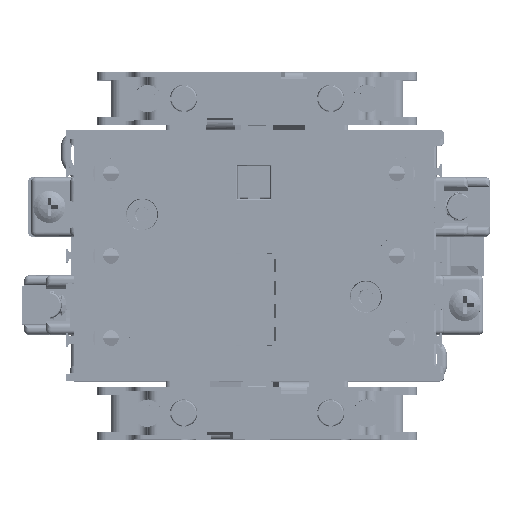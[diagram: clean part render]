
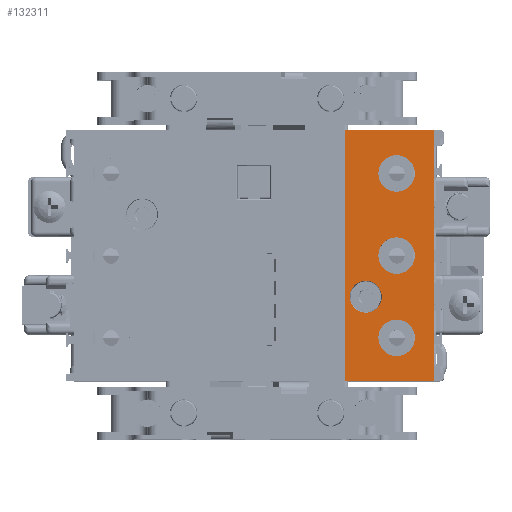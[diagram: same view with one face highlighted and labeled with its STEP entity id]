
A CAD part, top view. The second image highlights one B-rep face of the part: STEP entity #132311.
In plain terms, the highlighted planar face has unit normal (0, 0, 1).
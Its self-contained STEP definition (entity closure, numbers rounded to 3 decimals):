
#1023=DIRECTION('',(-1.,0.,0.));
#1024=VECTOR('',#1023,19.5);
#1025=CARTESIAN_POINT('',(80.5,43.55,79.05));
#1026=LINE('',#1025,#1024);
#1027=DIRECTION('',(0.,1.,0.));
#1028=VECTOR('',#1027,55.);
#1029=CARTESIAN_POINT('',(80.5,-11.45,79.05));
#1030=LINE('',#1029,#1028);
#1031=DIRECTION('',(1.,0.,0.));
#1032=VECTOR('',#1031,19.5);
#1033=CARTESIAN_POINT('',(61.,-11.45,79.05));
#1034=LINE('',#1033,#1032);
#1035=CARTESIAN_POINT('',(65.5,7.05,79.05));
#1036=DIRECTION('',(0.,0.,-1.));
#1037=DIRECTION('',(0.,1.,0.));
#1038=AXIS2_PLACEMENT_3D('',#1035,#1036,#1037);
#1040=CARTESIAN_POINT('',(65.5,7.05,79.05));
#1041=DIRECTION('',(0.,0.,-1.));
#1042=DIRECTION('',(0.,-1.,0.));
#1043=AXIS2_PLACEMENT_3D('',#1040,#1041,#1042);
#1045=CARTESIAN_POINT('',(72.25,16.05,79.05));
#1046=DIRECTION('',(0.,0.,-1.));
#1047=DIRECTION('',(0.,1.,0.));
#1048=AXIS2_PLACEMENT_3D('',#1045,#1046,#1047);
#1050=CARTESIAN_POINT('',(72.25,16.05,79.05));
#1051=DIRECTION('',(0.,0.,-1.));
#1052=DIRECTION('',(0.,-1.,0.));
#1053=AXIS2_PLACEMENT_3D('',#1050,#1051,#1052);
#1055=CARTESIAN_POINT('',(72.25,-1.95,79.05));
#1056=DIRECTION('',(0.,0.,-1.));
#1057=DIRECTION('',(0.,1.,0.));
#1058=AXIS2_PLACEMENT_3D('',#1055,#1056,#1057);
#1060=CARTESIAN_POINT('',(72.25,-1.95,79.05));
#1061=DIRECTION('',(0.,0.,-1.));
#1062=DIRECTION('',(0.,-1.,0.));
#1063=AXIS2_PLACEMENT_3D('',#1060,#1061,#1062);
#1065=CARTESIAN_POINT('',(72.25,34.05,79.05));
#1066=DIRECTION('',(0.,0.,-1.));
#1067=DIRECTION('',(0.,1.,0.));
#1068=AXIS2_PLACEMENT_3D('',#1065,#1066,#1067);
#1070=CARTESIAN_POINT('',(72.25,34.05,79.05));
#1071=DIRECTION('',(0.,0.,-1.));
#1072=DIRECTION('',(0.,-1.,0.));
#1073=AXIS2_PLACEMENT_3D('',#1070,#1071,#1072);
#8783=DIRECTION('',(0.,1.,0.));
#8784=VECTOR('',#8783,55.);
#8785=CARTESIAN_POINT('',(61.,-11.45,79.05));
#8786=LINE('',#8785,#8784);
#104638=CARTESIAN_POINT('',(80.5,43.55,79.05));
#104639=CARTESIAN_POINT('',(61.,43.55,79.05));
#104640=VERTEX_POINT('',#104638);
#104641=VERTEX_POINT('',#104639);
#104642=CARTESIAN_POINT('',(61.,-11.45,79.05));
#104643=VERTEX_POINT('',#104642);
#104644=CARTESIAN_POINT('',(80.5,-11.45,79.05));
#104645=VERTEX_POINT('',#104644);
#105254=CARTESIAN_POINT('',(72.25,38.05,79.05));
#105255=CARTESIAN_POINT('',(72.25,30.05,79.05));
#105256=VERTEX_POINT('',#105254);
#105257=VERTEX_POINT('',#105255);
#105258=CARTESIAN_POINT('',(72.25,2.05,79.05));
#105259=CARTESIAN_POINT('',(72.25,-5.95,79.05));
#105260=VERTEX_POINT('',#105258);
#105261=VERTEX_POINT('',#105259);
#105262=CARTESIAN_POINT('',(72.25,20.05,79.05));
#105263=CARTESIAN_POINT('',(72.25,12.05,79.05));
#105264=VERTEX_POINT('',#105262);
#105265=VERTEX_POINT('',#105263);
#105278=CARTESIAN_POINT('',(65.5,10.55,79.05));
#105280=VERTEX_POINT('',#105278);
#105282=CARTESIAN_POINT('',(65.5,3.55,79.05));
#105284=VERTEX_POINT('',#105282);
#132274=CARTESIAN_POINT('',(41.,16.05,79.05));
#132275=DIRECTION('',(0.,0.,1.));
#132276=DIRECTION('',(0.,-1.,0.));
#132277=AXIS2_PLACEMENT_3D('',#132274,#132275,#132276);
#132278=PLANE('',#132277);
#132280=ORIENTED_EDGE('',*,*,#132279,.F.);
#132281=ORIENTED_EDGE('',*,*,#132164,.F.);
#132282=ORIENTED_EDGE('',*,*,#131734,.F.);
#132284=ORIENTED_EDGE('',*,*,#132283,.T.);
#132285=EDGE_LOOP('',(#132280,#132281,#132282,#132284));
#132286=FACE_OUTER_BOUND('',#132285,.F.);
#132288=ORIENTED_EDGE('',*,*,#132287,.F.);
#132290=ORIENTED_EDGE('',*,*,#132289,.F.);
#132291=EDGE_LOOP('',(#132288,#132290));
#132292=FACE_BOUND('',#132291,.F.);
#132294=ORIENTED_EDGE('',*,*,#132293,.F.);
#132296=ORIENTED_EDGE('',*,*,#132295,.F.);
#132297=EDGE_LOOP('',(#132294,#132296));
#132298=FACE_BOUND('',#132297,.F.);
#132300=ORIENTED_EDGE('',*,*,#132299,.F.);
#132302=ORIENTED_EDGE('',*,*,#132301,.F.);
#132303=EDGE_LOOP('',(#132300,#132302));
#132304=FACE_BOUND('',#132303,.F.);
#132306=ORIENTED_EDGE('',*,*,#132305,.F.);
#132308=ORIENTED_EDGE('',*,*,#132307,.F.);
#132309=EDGE_LOOP('',(#132306,#132308));
#132310=FACE_BOUND('',#132309,.F.);
#132311=ADVANCED_FACE('',(#132286,#132292,#132298,#132304,#132310),#132278,.T.);
#1039=CIRCLE('',#1038,3.5);
#1044=CIRCLE('',#1043,3.5);
#1049=CIRCLE('',#1048,4.);
#1054=CIRCLE('',#1053,4.);
#1059=CIRCLE('',#1058,4.);
#1064=CIRCLE('',#1063,4.);
#1069=CIRCLE('',#1068,4.);
#1074=CIRCLE('',#1073,4.);
#131734=EDGE_CURVE('',#104643,#104645,#1034,.T.);
#132164=EDGE_CURVE('',#104645,#104640,#1030,.T.);
#132279=EDGE_CURVE('',#104640,#104641,#1026,.T.);
#132283=EDGE_CURVE('',#104643,#104641,#8786,.T.);
#132287=EDGE_CURVE('',#105280,#105284,#1039,.T.);
#132289=EDGE_CURVE('',#105284,#105280,#1044,.T.);
#132293=EDGE_CURVE('',#105264,#105265,#1049,.T.);
#132295=EDGE_CURVE('',#105265,#105264,#1054,.T.);
#132299=EDGE_CURVE('',#105260,#105261,#1059,.T.);
#132301=EDGE_CURVE('',#105261,#105260,#1064,.T.);
#132305=EDGE_CURVE('',#105256,#105257,#1069,.T.);
#132307=EDGE_CURVE('',#105257,#105256,#1074,.T.);
